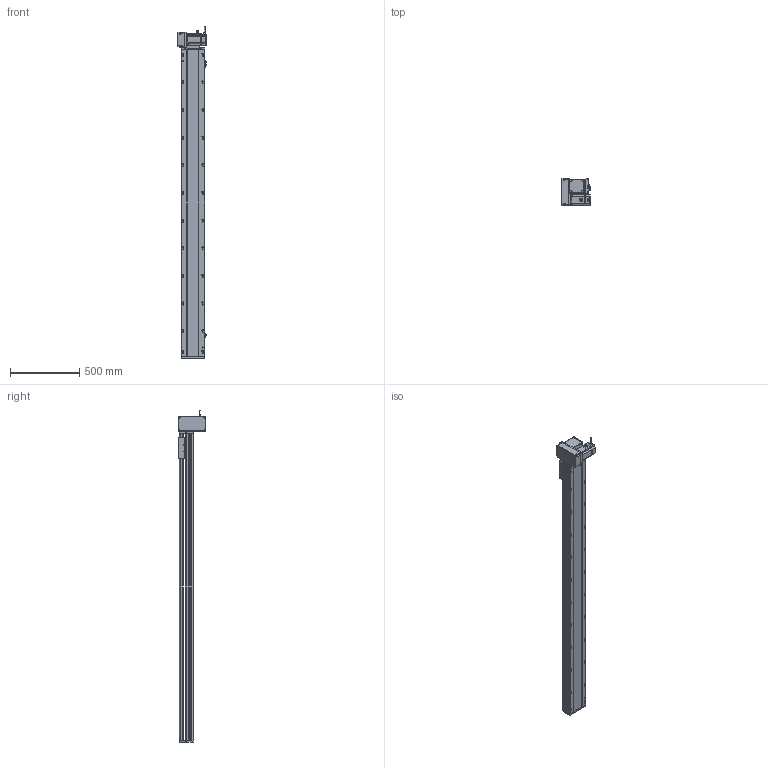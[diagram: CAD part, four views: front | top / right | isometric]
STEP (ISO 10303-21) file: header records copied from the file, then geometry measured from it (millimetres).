
FILE_DESCRIPTION (( 'STEP AP214' ), '1' );
FILE_NAME ('RTB17S-XX-1950-LM-M75-C4.STEP', '2025-12-12T00:43:59', ( '' ), ( '' ), 'SwSTEP 2.0', 'SolidWorks 2018', '' );
FILE_SCHEMA (( 'AUTOMOTIVE_DESIGN' ));
Length unit declared in the file: millimetre
Products named in the file (15): RTB17S-LM-々湍釱蚾饜-750W^RTB17S-XX-XX-LM-M75-C4; RTB17S-賑釱^RTB17S-XX-XX-LM-M75-C4; RTB17S-L-007奻裔^RTB17S-XX-XX-LM-M75-C4; RTB22S-GY-008-M75--萇儂啣^RTB17S-LM-々湍釱蚾饜-750W_RTB17S-XX-XX-LM-M75-C4; RTB17S-L-004-賑釱^RTB17S-賑釱_RTB17S-XX-XX-LM-M75-C4; RTB22S-GY-005P^RTB17S-LM-々湍釱蚾饜-750W_RTB17S-XX-XX-LM-M75-C4; RTB17S-XX-1950-LM-M75-C4; RTB22S-GY-017P^RTB17S-LM-々湍釱蚾饜-750W_RTB17S-XX-XX-LM-M75-C4; RTB17S-L-014-T20-P75--々湍釱^RTB17S-LM-々湍釱蚾饜-750W_RTB17S-XX-XX-LM-M75-C4; RTB22S-GY-018P^RTB17S-LM-々湍釱蚾饜-750W_RTB17S-XX-XX-LM-M75-C4; 750W萇儂^RTB17S-XX-XX-LM-M75-C4; RTB17-R-011菁釱^RTB17S-XX-XX-LM-M75-C4; RTB17S-L-001-耜醱啣^RTB17S-XX-XX-LM-M75-C4; EE672^RTB17S-XX-XX-LM-M75-C4; RTH13-BL-012覜茼え俋离^RTB17S-賑釱_RTB17S-XX-XX-LM-M75-C4
Assembly tree (17 placements, depth 3):
  RTB17S-XX-1950-LM-M75-C4
    RTB17-R-011菁釱^RTB17S-XX-XX-LM-M75-C4
    EE672^RTB17S-XX-XX-LM-M75-C4  x3
    RTB17S-L-001-耜醱啣^RTB17S-XX-XX-LM-M75-C4
    RTB17S-賑釱^RTB17S-XX-XX-LM-M75-C4
      RTB17S-L-004-賑釱^RTB17S-賑釱_RTB17S-XX-XX-LM-M75-C4
      RTH13-BL-012覜茼え俋离^RTB17S-賑釱_RTB17S-XX-XX-LM-M75-C4
    RTB17S-L-007奻裔^RTB17S-XX-XX-LM-M75-C4
    750W萇儂^RTB17S-XX-XX-LM-M75-C4
    RTB17S-LM-々湍釱蚾饜-750W^RTB17S-XX-XX-LM-M75-C4
      RTB17S-L-014-T20-P75--々湍釱^RTB17S-LM-々湍釱蚾饜-750W_RTB17S-XX-XX-LM-M75-C4
      RTB22S-GY-005P^RTB17S-LM-々湍釱蚾饜-750W_RTB17S-XX-XX-LM-M75-C4
      RTB22S-GY-017P^RTB17S-LM-々湍釱蚾饜-750W_RTB17S-XX-XX-LM-M75-C4  x2
      RTB22S-GY-008-M75--萇儂啣^RTB17S-LM-々湍釱蚾饜-750W_RTB17S-XX-XX-LM-M75-C4
      RTB22S-GY-018P^RTB17S-LM-々湍釱蚾饜-750W_RTB17S-XX-XX-LM-M75-C4
Bounding box: 210.4 x 200 x 2402.2 mm (x, y, z)
Volume: 18139740 mm3; surface area: 3237831.8 mm2
Topology: 17 solids, 17 shells, 2169 faces, 6052 edges, 3914 vertices
Faces by surface type: plane 980, cylinder 773, bspline 294, cone 110, sphere 8, torus 4
Entity records: 61942 total; most frequent: CARTESIAN_POINT 18316, ORIENTED_EDGE 8948, DIRECTION 8312, EDGE_CURVE 4474, AXIS2_PLACEMENT_3D 2934, VERTEX_POINT 2918, VECTOR 2444, LINE 2444
